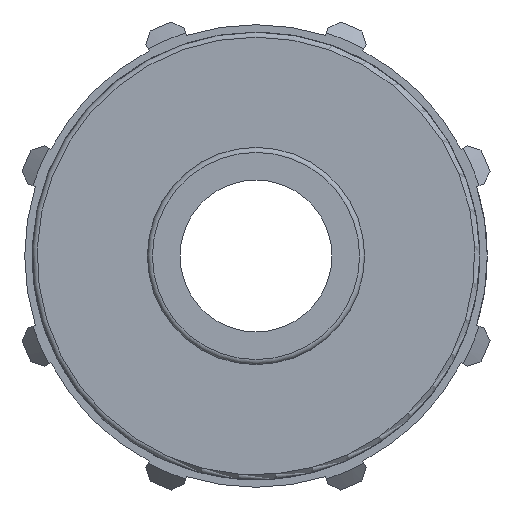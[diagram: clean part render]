
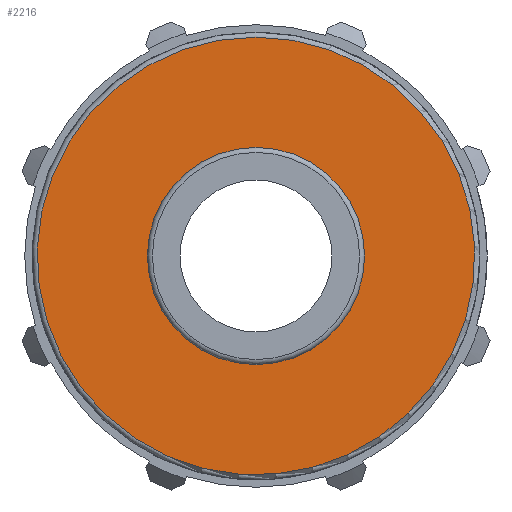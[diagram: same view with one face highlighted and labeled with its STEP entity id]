
A CAD part, left-side view. The second image highlights one B-rep face of the part: STEP entity #2216.
In plain terms, the highlighted planar face has unit normal (-1, 0, 0).
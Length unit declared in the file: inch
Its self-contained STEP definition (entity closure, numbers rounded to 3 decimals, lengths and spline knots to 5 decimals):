
#422=FACE_BOUND('',#639,.T.);
#435=PLANE('',#2401);
#514=FACE_OUTER_BOUND('',#638,.T.);
#638=EDGE_LOOP('',(#1534,#1535));
#639=EDGE_LOOP('',(#1536,#1537));
#746=CIRCLE('',#2341,0.825);
#747=CIRCLE('',#2342,0.825);
#784=CIRCLE('',#2399,1.66313);
#785=CIRCLE('',#2400,1.66313);
#863=VERTEX_POINT('',#3209);
#864=VERTEX_POINT('',#3210);
#930=VERTEX_POINT('',#3599);
#931=VERTEX_POINT('',#3601);
#1087=EDGE_CURVE('',#863,#864,#746,.T.);
#1088=EDGE_CURVE('',#864,#863,#747,.T.);
#1175=EDGE_CURVE('',#930,#931,#784,.T.);
#1176=EDGE_CURVE('',#931,#930,#785,.T.);
#1534=ORIENTED_EDGE('',*,*,#1176,.F.);
#1535=ORIENTED_EDGE('',*,*,#1175,.F.);
#1536=ORIENTED_EDGE('',*,*,#1087,.T.);
#1537=ORIENTED_EDGE('',*,*,#1088,.T.);
#2216=ADVANCED_FACE('',(#514,#422),#435,.T.);
#2341=AXIS2_PLACEMENT_3D('',#3211,#2589,#2590);
#2342=AXIS2_PLACEMENT_3D('',#3212,#2591,#2592);
#2399=AXIS2_PLACEMENT_3D('',#3602,#2731,#2732);
#2400=AXIS2_PLACEMENT_3D('',#3603,#2733,#2734);
#2401=AXIS2_PLACEMENT_3D('',#3604,#2735,#2736);
#2589=DIRECTION('center_axis',(1.,0.,0.));
#2590=DIRECTION('ref_axis',(0.,0.,-1.));
#2591=DIRECTION('center_axis',(1.,0.,0.));
#2592=DIRECTION('ref_axis',(0.,0.,-1.));
#2731=DIRECTION('center_axis',(1.,0.,0.));
#2732=DIRECTION('ref_axis',(0.,-0.552,0.834));
#2733=DIRECTION('center_axis',(1.,0.,0.));
#2734=DIRECTION('ref_axis',(0.,-0.552,0.834));
#2735=DIRECTION('center_axis',(-1.,0.,0.));
#2736=DIRECTION('ref_axis',(0.,0.,1.));
#3209=CARTESIAN_POINT('',(0.87,0.825,0.));
#3210=CARTESIAN_POINT('',(0.87,-0.825,0.));
#3211=CARTESIAN_POINT('Origin',(0.87,0.,0.));
#3212=CARTESIAN_POINT('Origin',(0.87,0.,0.));
#3599=CARTESIAN_POINT('',(0.87,0.,1.66313));
#3601=CARTESIAN_POINT('',(0.87,0.91758,-1.3871));
#3602=CARTESIAN_POINT('Origin',(0.87,0.,0.));
#3603=CARTESIAN_POINT('Origin',(0.87,0.,0.));
#3604=CARTESIAN_POINT('Origin',(0.87,1.701,0.));
